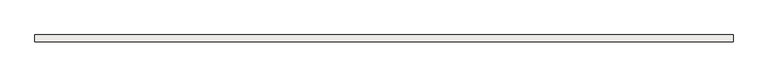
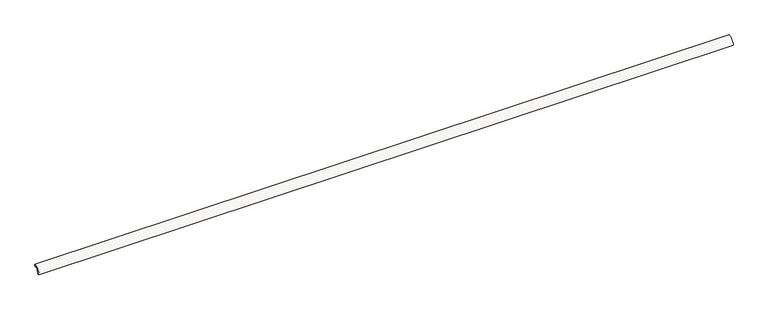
"""IFC4 building model written with IfcOpenShell, lengths in millimetres: slab geometry, ROSA GRES_183 : Pieza 183_Tresor_Bali_Anti-Slip."""

from ifc_helpers import new_model, si_unit, point, frame, frame_2d, origin, origin_2d, place, context, project, spatial, polyline, circle_curve, trimmed, segment, composite_curve, outline, extrude, source, transform, mapped, element, save


def slab_501e5d73(model_context):
    return source(origin(), model_context, "Body", "SweptSolid", [
        extrude(outline(composite_curve([segment(polyline([(0.0, 40.0), (0.0, 30.0265886)]), True, "CONTINUOUS"), segment(trimmed(circle_curve(frame_2d((-0.0044453, 0.0044453)), 30.0221435), [point((0.0, 30.0265886))], [point((-30.0265886, 0.0))], True, "CARTESIAN"), True, "CONTINUOUS"), segment(polyline([(-30.0265886, 0.0), (-40.0, 0.0)]), True, "CONTINUOUS"), segment(trimmed(circle_curve(origin_2d(), 40.0), [point((-40.0, 0.0))], [point((0.0, 40.0))], False, "CARTESIAN"), True, "CONTINUOUS")], self_intersect=False)), frame((0.0, 0.0, 0.0), z_axis=(1.0, 0.0, 0.0), x_axis=(0.0, 1.0, 0.0)), (0.0, 0.0, 1.0), 4009.7234114),
    ])


if __name__ == "__main__":
    model = new_model("IFC4")
    model_context = context("Model", 3, world=origin())
    ifc_project = project(units=[si_unit("LENGTHUNIT", "METRE", prefix="MILLI")], contexts=[model_context])
    site = spatial("IfcSite", under=ifc_project)
    building = spatial("IfcBuilding", under=site)
    placement = place(None, origin())
    slab_shape = slab_501e5d73(model_context)
    element("IfcSlab", 1, ObjectType="ROSA GRES_183 : Pieza 183_Tresor_Bali_Anti-Slip", at=placement, inside=building, context=model_context, shape_type="MappedRepresentation", body=[
        mapped(slab_shape, transform((0.0, 0.0, 0.0), x_axis=(1.0, 0.0, 0.0), y_axis=(0.0, 1.0, 0.0), z_axis=(0.0, 0.0, 1.0))),
    ])
    save(model, "model.ifc")
